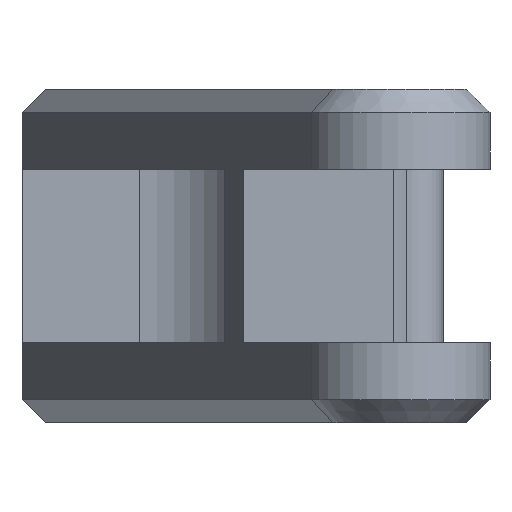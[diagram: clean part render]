
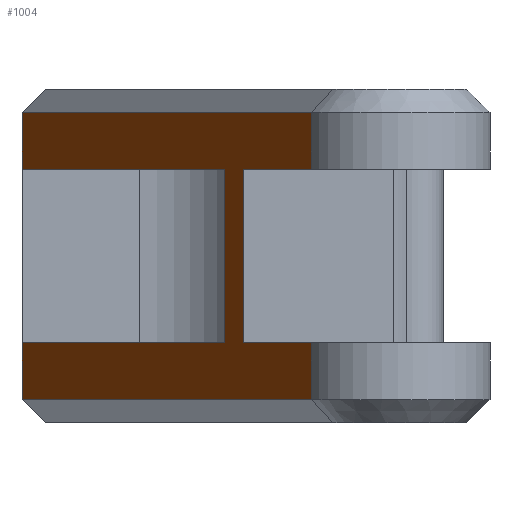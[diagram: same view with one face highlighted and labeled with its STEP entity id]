
A CAD part, front view. The second image highlights one B-rep face of the part: STEP entity #1004.
In plain terms, the highlighted planar face has unit normal (-0.905, -0.426, 0).
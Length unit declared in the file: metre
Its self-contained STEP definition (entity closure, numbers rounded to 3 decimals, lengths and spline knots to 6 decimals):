
#66=ORIENTED_EDGE('',*,*,#352,.F.);
#67=ORIENTED_EDGE('',*,*,#353,.T.);
#68=ORIENTED_EDGE('',*,*,#350,.T.);
#69=ORIENTED_EDGE('',*,*,#354,.F.);
#70=ORIENTED_EDGE('',*,*,#355,.T.);
#71=ORIENTED_EDGE('',*,*,#356,.T.);
#72=ORIENTED_EDGE('',*,*,#346,.T.);
#73=ORIENTED_EDGE('',*,*,#357,.T.);
#74=ORIENTED_EDGE('',*,*,#358,.F.);
#75=ORIENTED_EDGE('',*,*,#359,.T.);
#76=ORIENTED_EDGE('',*,*,#360,.T.);
#77=ORIENTED_EDGE('',*,*,#361,.F.);
#346=EDGE_CURVE('',#490,#489,#575,.T.);
#350=EDGE_CURVE('',#494,#493,#579,.T.);
#352=EDGE_CURVE('',#495,#496,#581,.T.);
#353=EDGE_CURVE('',#495,#494,#582,.T.);
#354=EDGE_CURVE('',#497,#493,#583,.T.);
#355=EDGE_CURVE('',#497,#498,#584,.T.);
#356=EDGE_CURVE('',#498,#490,#585,.T.);
#357=EDGE_CURVE('',#489,#499,#586,.T.);
#358=EDGE_CURVE('',#500,#499,#587,.T.);
#359=EDGE_CURVE('',#500,#501,#588,.T.);
#360=EDGE_CURVE('',#501,#502,#589,.T.);
#361=EDGE_CURVE('',#496,#502,#590,.T.);
#489=VERTEX_POINT('',#1475);
#490=VERTEX_POINT('',#1477);
#493=VERTEX_POINT('',#1483);
#494=VERTEX_POINT('',#1485);
#495=VERTEX_POINT('',#1489);
#496=VERTEX_POINT('',#1490);
#497=VERTEX_POINT('',#1493);
#498=VERTEX_POINT('',#1495);
#499=VERTEX_POINT('',#1498);
#500=VERTEX_POINT('',#1500);
#501=VERTEX_POINT('',#1502);
#502=VERTEX_POINT('',#1504);
#575=LINE('',#1476,#690);
#579=LINE('',#1484,#694);
#581=LINE('',#1488,#696);
#582=LINE('',#1491,#697);
#583=LINE('',#1492,#698);
#584=LINE('',#1494,#699);
#585=LINE('',#1496,#700);
#586=LINE('',#1497,#701);
#587=LINE('',#1499,#702);
#588=LINE('',#1501,#703);
#589=LINE('',#1503,#704);
#590=LINE('',#1505,#705);
#690=VECTOR('',#1178,1.);
#694=VECTOR('',#1182,1.);
#696=VECTOR('',#1186,1.);
#697=VECTOR('',#1187,1.);
#698=VECTOR('',#1188,1.);
#699=VECTOR('',#1189,1.);
#700=VECTOR('',#1190,1.);
#701=VECTOR('',#1191,1.);
#702=VECTOR('',#1192,1.);
#703=VECTOR('',#1193,1.);
#704=VECTOR('',#1194,1.);
#705=VECTOR('',#1195,1.);
#801=EDGE_LOOP('',(#66,#67,#68,#69,#70,#71,#72,#73,#74,#75,#76,#77));
#878=FACE_BOUND('',#801,.T.);
#954=PLANE('',#1081);
#1004=ADVANCED_FACE('',(#878),#954,.T.);
#1081=AXIS2_PLACEMENT_3D('',#1487,#1184,#1185);
#1178=DIRECTION('',(0.,0.,-1.));
#1182=DIRECTION('',(0.,0.,-1.));
#1184=DIRECTION('',(-0.905,-0.426,0.));
#1185=DIRECTION('',(0.426,-0.905,0.));
#1186=DIRECTION('',(0.,0.,-1.));
#1187=DIRECTION('',(-0.426,0.905,0.));
#1188=DIRECTION('',(-0.426,0.905,0.));
#1189=DIRECTION('',(0.,0.,-1.));
#1190=DIRECTION('',(-0.426,0.905,0.));
#1191=DIRECTION('',(0.426,-0.905,0.));
#1192=DIRECTION('',(0.,0.,-1.));
#1193=DIRECTION('',(-0.426,0.905,0.));
#1194=DIRECTION('',(0.,0.,1.));
#1195=DIRECTION('',(-0.426,0.905,0.));
#1475=CARTESIAN_POINT('',(0.,0.015065,0.000889));
#1476=CARTESIAN_POINT('',(0.,0.015065,0.0127));
#1477=CARTESIAN_POINT('',(0.,0.015065,0.003048));
#1483=CARTESIAN_POINT('',(0.,0.015065,0.009652));
#1484=CARTESIAN_POINT('',(0.,0.015065,0.0127));
#1485=CARTESIAN_POINT('',(0.,0.015065,0.011811));
#1487=CARTESIAN_POINT('',(0.005506,0.003378,0.0127));
#1488=CARTESIAN_POINT('',(0.011012,-0.008309,0.0127));
#1489=CARTESIAN_POINT('',(0.011012,-0.008309,0.011811));
#1490=CARTESIAN_POINT('',(0.011012,-0.008309,0.009652));
#1491=CARTESIAN_POINT('',(0.005506,0.003378,0.011811));
#1492=CARTESIAN_POINT('',(0.005506,0.003378,0.009652));
#1493=CARTESIAN_POINT('',(0.007718,-0.001317,0.009652));
#1494=CARTESIAN_POINT('',(0.007718,-0.001317,0.0127));
#1495=CARTESIAN_POINT('',(0.007718,-0.001317,0.003048));
#1496=CARTESIAN_POINT('',(0.005506,0.003378,0.003048));
#1497=CARTESIAN_POINT('',(0.011012,-0.008309,0.000889));
#1498=CARTESIAN_POINT('',(0.011012,-0.008309,0.000889));
#1499=CARTESIAN_POINT('',(0.011012,-0.008309,0.0127));
#1500=CARTESIAN_POINT('',(0.011012,-0.008309,0.003048));
#1501=CARTESIAN_POINT('',(0.005506,0.003378,0.003048));
#1502=CARTESIAN_POINT('',(0.008418,-0.002804,0.003048));
#1503=CARTESIAN_POINT('',(0.008418,-0.002804,0.0127));
#1504=CARTESIAN_POINT('',(0.008418,-0.002804,0.009652));
#1505=CARTESIAN_POINT('',(0.005506,0.003378,0.009652));
